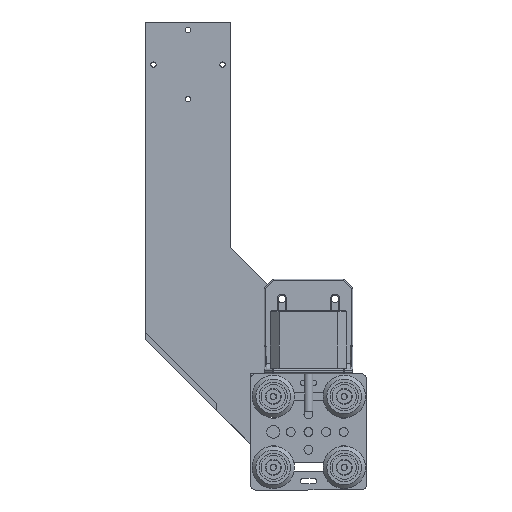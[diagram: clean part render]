
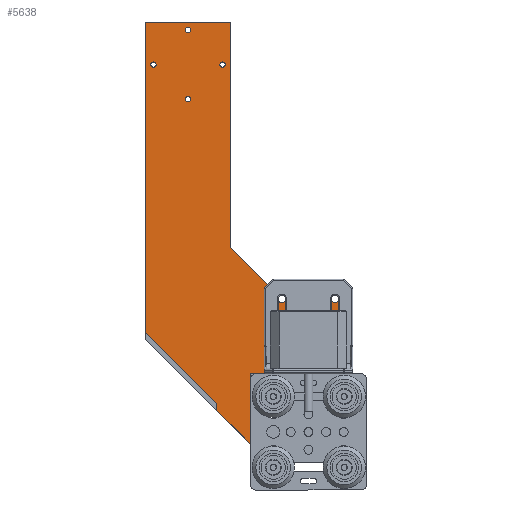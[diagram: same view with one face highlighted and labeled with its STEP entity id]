
A CAD part, left-side view. The second image highlights one B-rep face of the part: STEP entity #5638.
In plain terms, the highlighted planar face has unit normal (-1, 0, 0).
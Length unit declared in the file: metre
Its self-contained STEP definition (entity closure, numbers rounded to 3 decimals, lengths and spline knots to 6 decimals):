
#464=LINE('',#8790,#828);
#465=LINE('',#8793,#829);
#466=LINE('',#8795,#830);
#467=LINE('',#8797,#831);
#468=LINE('',#8799,#832);
#469=LINE('',#8801,#833);
#470=LINE('',#8803,#834);
#471=LINE('',#8805,#835);
#472=LINE('',#8807,#836);
#473=LINE('',#8809,#837);
#474=LINE('',#8811,#838);
#828=VECTOR('',#6936,1.);
#829=VECTOR('',#6937,1.);
#830=VECTOR('',#6938,1.);
#831=VECTOR('',#6939,1.);
#832=VECTOR('',#6940,1.);
#833=VECTOR('',#6941,1.);
#834=VECTOR('',#6942,1.);
#835=VECTOR('',#6943,1.);
#836=VECTOR('',#6944,1.);
#837=VECTOR('',#6945,1.);
#838=VECTOR('',#6946,1.);
#1192=ORIENTED_EDGE('',*,*,#2722,.T.);
#1193=ORIENTED_EDGE('',*,*,#2723,.T.);
#1194=ORIENTED_EDGE('',*,*,#2724,.T.);
#1195=ORIENTED_EDGE('',*,*,#2725,.T.);
#1196=ORIENTED_EDGE('',*,*,#2726,.T.);
#1197=ORIENTED_EDGE('',*,*,#2727,.T.);
#1198=ORIENTED_EDGE('',*,*,#2728,.T.);
#1199=ORIENTED_EDGE('',*,*,#2729,.T.);
#1200=ORIENTED_EDGE('',*,*,#2730,.F.);
#1201=ORIENTED_EDGE('',*,*,#2731,.T.);
#1202=ORIENTED_EDGE('',*,*,#2732,.F.);
#1203=ORIENTED_EDGE('',*,*,#2733,.T.);
#1204=ORIENTED_EDGE('',*,*,#2734,.F.);
#1205=ORIENTED_EDGE('',*,*,#2735,.T.);
#1206=ORIENTED_EDGE('',*,*,#2736,.T.);
#1207=ORIENTED_EDGE('',*,*,#2737,.T.);
#1208=ORIENTED_EDGE('',*,*,#2738,.F.);
#1209=ORIENTED_EDGE('',*,*,#2739,.T.);
#1210=ORIENTED_EDGE('',*,*,#2740,.T.);
#2722=EDGE_CURVE('',#3487,#3487,#4007,.T.);
#2723=EDGE_CURVE('',#3488,#3488,#4008,.T.);
#2724=EDGE_CURVE('',#3489,#3489,#4009,.T.);
#2725=EDGE_CURVE('',#3490,#3490,#4010,.T.);
#2726=EDGE_CURVE('',#3491,#3491,#4011,.T.);
#2727=EDGE_CURVE('',#3492,#3492,#4012,.T.);
#2728=EDGE_CURVE('',#3493,#3493,#4013,.T.);
#2729=EDGE_CURVE('',#3494,#3494,#4014,.T.);
#2730=EDGE_CURVE('',#3495,#3496,#464,.T.);
#2731=EDGE_CURVE('',#3495,#3497,#465,.T.);
#2732=EDGE_CURVE('',#3498,#3497,#466,.T.);
#2733=EDGE_CURVE('',#3498,#3499,#467,.T.);
#2734=EDGE_CURVE('',#3500,#3499,#468,.T.);
#2735=EDGE_CURVE('',#3500,#3501,#469,.T.);
#2736=EDGE_CURVE('',#3501,#3502,#470,.T.);
#2737=EDGE_CURVE('',#3502,#3503,#471,.T.);
#2738=EDGE_CURVE('',#3504,#3503,#472,.T.);
#2739=EDGE_CURVE('',#3504,#3505,#473,.T.);
#2740=EDGE_CURVE('',#3505,#3496,#474,.T.);
#3487=VERTEX_POINT('',#8775);
#3488=VERTEX_POINT('',#8777);
#3489=VERTEX_POINT('',#8779);
#3490=VERTEX_POINT('',#8781);
#3491=VERTEX_POINT('',#8783);
#3492=VERTEX_POINT('',#8785);
#3493=VERTEX_POINT('',#8787);
#3494=VERTEX_POINT('',#8789);
#3495=VERTEX_POINT('',#8791);
#3496=VERTEX_POINT('',#8792);
#3497=VERTEX_POINT('',#8794);
#3498=VERTEX_POINT('',#8796);
#3499=VERTEX_POINT('',#8798);
#3500=VERTEX_POINT('',#8800);
#3501=VERTEX_POINT('',#8802);
#3502=VERTEX_POINT('',#8804);
#3503=VERTEX_POINT('',#8806);
#3504=VERTEX_POINT('',#8808);
#3505=VERTEX_POINT('',#8810);
#4007=CIRCLE('',#6172,0.0015);
#4008=CIRCLE('',#6173,0.0015);
#4009=CIRCLE('',#6174,0.0015);
#4010=CIRCLE('',#6175,0.0015);
#4011=CIRCLE('',#6176,0.0021);
#4012=CIRCLE('',#6177,0.0021);
#4013=CIRCLE('',#6178,0.0021);
#4014=CIRCLE('',#6179,0.0021);
#4340=EDGE_LOOP('',(#1192));
#4341=EDGE_LOOP('',(#1193));
#4342=EDGE_LOOP('',(#1194));
#4343=EDGE_LOOP('',(#1195));
#4344=EDGE_LOOP('',(#1196));
#4345=EDGE_LOOP('',(#1197));
#4346=EDGE_LOOP('',(#1198));
#4347=EDGE_LOOP('',(#1199));
#4348=EDGE_LOOP('',(#1200,#1201,#1202,#1203,#1204,#1205,#1206,#1207,#1208,
#1209,#1210));
#4915=FACE_BOUND('',#4340,.T.);
#4916=FACE_BOUND('',#4341,.T.);
#4917=FACE_BOUND('',#4342,.T.);
#4918=FACE_BOUND('',#4343,.T.);
#4919=FACE_BOUND('',#4344,.T.);
#4920=FACE_BOUND('',#4345,.T.);
#4921=FACE_BOUND('',#4346,.T.);
#4922=FACE_BOUND('',#4347,.T.);
#4923=FACE_BOUND('',#4348,.T.);
#5490=PLANE('',#6171);
#5638=ADVANCED_FACE('',(#4915,#4916,#4917,#4918,#4919,#4920,#4921,#4922,
#4923),#5490,.F.);
#6171=AXIS2_PLACEMENT_3D('',#8773,#6918,#6919);
#6172=AXIS2_PLACEMENT_3D('',#8774,#6920,#6921);
#6173=AXIS2_PLACEMENT_3D('',#8776,#6922,#6923);
#6174=AXIS2_PLACEMENT_3D('',#8778,#6924,#6925);
#6175=AXIS2_PLACEMENT_3D('',#8780,#6926,#6927);
#6176=AXIS2_PLACEMENT_3D('',#8782,#6928,#6929);
#6177=AXIS2_PLACEMENT_3D('',#8784,#6930,#6931);
#6178=AXIS2_PLACEMENT_3D('',#8786,#6932,#6933);
#6179=AXIS2_PLACEMENT_3D('',#8788,#6934,#6935);
#6918=DIRECTION('',(1.,0.,0.));
#6919=DIRECTION('',(0.,1.,0.));
#6920=DIRECTION('',(1.,0.,0.));
#6921=DIRECTION('',(0.,0.,-1.));
#6922=DIRECTION('',(1.,0.,0.));
#6923=DIRECTION('',(0.,0.,-1.));
#6924=DIRECTION('',(1.,0.,0.));
#6925=DIRECTION('',(0.,0.,-1.));
#6926=DIRECTION('',(1.,0.,0.));
#6927=DIRECTION('',(0.,0.,-1.));
#6928=DIRECTION('',(1.,0.,0.));
#6929=DIRECTION('',(0.,0.,-1.));
#6930=DIRECTION('',(1.,0.,0.));
#6931=DIRECTION('',(0.,0.,-1.));
#6932=DIRECTION('',(1.,0.,0.));
#6933=DIRECTION('',(0.,0.,-1.));
#6934=DIRECTION('',(1.,0.,0.));
#6935=DIRECTION('',(0.,0.,-1.));
#6936=DIRECTION('',(0.,0.707,0.707));
#6937=DIRECTION('',(0.,0.,-1.));
#6938=DIRECTION('',(0.,0.707,0.707));
#6939=DIRECTION('',(0.,0.,1.));
#6940=DIRECTION('',(0.,1.,0.));
#6941=DIRECTION('',(0.,0.,1.));
#6942=DIRECTION('',(0.,1.,0.));
#6943=DIRECTION('',(0.,0.707,0.707));
#6944=DIRECTION('',(0.,0.,-1.));
#6945=DIRECTION('',(0.,1.,0.));
#6946=DIRECTION('',(0.,0.,-1.));
#8773=CARTESIAN_POINT('',(-0.003,0.03356,0.108146));
#8774=CARTESIAN_POINT('',(-0.003,0.04844,0.207098));
#8775=CARTESIAN_POINT('',(-0.003,0.04844,0.205598));
#8776=CARTESIAN_POINT('',(-0.003,0.08744,0.207098));
#8777=CARTESIAN_POINT('',(-0.003,0.08744,0.205598));
#8778=CARTESIAN_POINT('',(-0.003,0.06794,0.187643));
#8779=CARTESIAN_POINT('',(-0.003,0.06794,0.186143));
#8780=CARTESIAN_POINT('',(-0.003,0.06794,0.226643));
#8781=CARTESIAN_POINT('',(-0.003,0.06794,0.225143));
#8782=CARTESIAN_POINT('',(-0.003,-0.015,0.04503));
#8783=CARTESIAN_POINT('',(-0.003,-0.015,0.04293));
#8784=CARTESIAN_POINT('',(-0.003,0.015,0.04503));
#8785=CARTESIAN_POINT('',(-0.003,0.015,0.04293));
#8786=CARTESIAN_POINT('',(-0.003,-0.015,0.07503));
#8787=CARTESIAN_POINT('',(-0.003,-0.015,0.07293));
#8788=CARTESIAN_POINT('',(-0.003,0.015,0.07503));
#8789=CARTESIAN_POINT('',(-0.003,0.015,0.07293));
#8790=CARTESIAN_POINT('',(-0.003,0.071801,0.036151));
#8791=CARTESIAN_POINT('',(-0.003,0.051682,0.016032));
#8792=CARTESIAN_POINT('',(-0.003,0.09192,0.05627));
#8793=CARTESIAN_POINT('',(-0.003,0.051682,0.014032));
#8794=CARTESIAN_POINT('',(-0.003,0.051682,0.012032));
#8795=CARTESIAN_POINT('',(-0.003,0.071801,0.032151));
#8796=CARTESIAN_POINT('',(-0.003,0.0328,-0.00685));
#8797=CARTESIAN_POINT('',(-0.003,0.0328,0.02895));
#8798=CARTESIAN_POINT('',(-0.003,0.0328,0.03295));
#8799=CARTESIAN_POINT('',(-0.003,0.0028,0.03295));
#8800=CARTESIAN_POINT('',(-0.003,-0.0211,0.03295));
#8801=CARTESIAN_POINT('',(-0.003,-0.0211,0.05704));
#8802=CARTESIAN_POINT('',(-0.003,-0.0211,0.08113));
#8803=CARTESIAN_POINT('',(-0.003,0.,0.08113));
#8804=CARTESIAN_POINT('',(-0.003,0.0211,0.08113));
#8805=CARTESIAN_POINT('',(-0.003,0.03253,0.09256));
#8806=CARTESIAN_POINT('',(-0.003,0.04396,0.10399));
#8807=CARTESIAN_POINT('',(-0.003,0.04396,0.167566));
#8808=CARTESIAN_POINT('',(-0.003,0.04396,0.231143));
#8809=CARTESIAN_POINT('',(-0.003,0.07993,0.231143));
#8810=CARTESIAN_POINT('',(-0.003,0.09192,0.231143));
#8811=CARTESIAN_POINT('',(-0.003,0.09192,0.143706));
